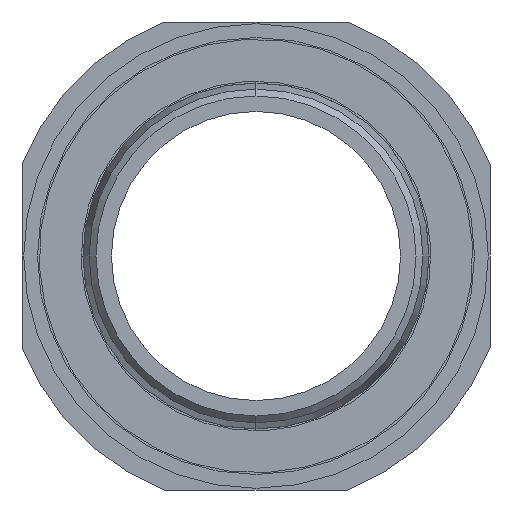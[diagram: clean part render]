
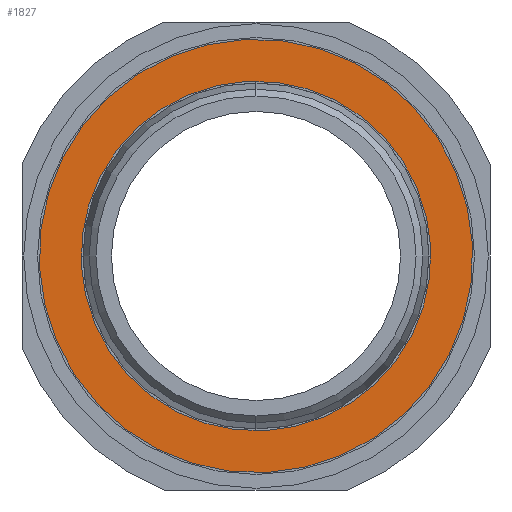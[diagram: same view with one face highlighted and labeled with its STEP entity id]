
A CAD part, left-side view. The second image highlights one B-rep face of the part: STEP entity #1827.
In plain terms, the highlighted planar face has unit normal (-1, 0, 0).
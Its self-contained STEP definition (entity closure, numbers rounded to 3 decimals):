
#265 = AXIS2_PLACEMENT_3D ( 'NONE', #1411, #1412, #1413 ) ;
#267 = AXIS2_PLACEMENT_3D ( 'NONE', #1421, #1422, #1423 ) ;
#277 = EDGE_LOOP ( 'NONE', ( #1157, #1158 ) ) ;
#500 = CIRCLE ( 'NONE', #265, 25.4 ) ;
#504 = CIRCLE ( 'NONE', #267, 31.5 ) ;
#511 = CIRCLE ( 'NONE', #1310, 31.5 ) ;
#512 = CIRCLE ( 'NONE', #1311, 25.4 ) ;
#990 = VERTEX_POINT ( 'NONE', #1793 ) ;
#1105 = VERTEX_POINT ( 'NONE', #1781 ) ;
#1106 = VERTEX_POINT ( 'NONE', #1780 ) ;
#1155 = ORIENTED_EDGE ( 'NONE', *, *, #1984, .F. ) ;
#1156 = ORIENTED_EDGE ( 'NONE', *, *, #1980, .F. ) ;
#1157 = ORIENTED_EDGE ( 'NONE', *, *, #1976, .T. ) ;
#1158 = ORIENTED_EDGE ( 'NONE', *, *, #1985, .T. ) ;
#1178 = FACE_OUTER_BOUND ( 'NONE', #1734, .T. ) ;
#1182 = FACE_BOUND ( 'NONE', #277, .T. ) ;
#1310 = AXIS2_PLACEMENT_3D ( 'NONE', #1432, #1433, #1434 ) ;
#1311 = AXIS2_PLACEMENT_3D ( 'NONE', #1437, #1438, #1439 ) ;
#1411 = CARTESIAN_POINT ( 'NONE',  ( -85., 0., 0. ) ) ;
#1412 = DIRECTION ( 'NONE',  ( 1., 0., 0. ) ) ;
#1413 = DIRECTION ( 'NONE',  ( 0., -0.225, -0.974 ) ) ;
#1421 = CARTESIAN_POINT ( 'NONE',  ( -85., 0., 0. ) ) ;
#1422 = DIRECTION ( 'NONE',  ( 1., 0., 0. ) ) ;
#1423 = DIRECTION ( 'NONE',  ( 0., -0.225, -0.974 ) ) ;
#1432 = CARTESIAN_POINT ( 'NONE',  ( -85., 0., 0. ) ) ;
#1433 = DIRECTION ( 'NONE',  ( 1., 0., 0. ) ) ;
#1434 = DIRECTION ( 'NONE',  ( 0., -0.225, -0.974 ) ) ;
#1437 = CARTESIAN_POINT ( 'NONE',  ( -85., 0., 0. ) ) ;
#1438 = DIRECTION ( 'NONE',  ( 1., 0., 0. ) ) ;
#1439 = DIRECTION ( 'NONE',  ( 0., -0.225, -0.974 ) ) ;
#1728 = VERTEX_POINT ( 'NONE', #1772 ) ;
#1734 = EDGE_LOOP ( 'NONE', ( #1155, #1156 ) ) ;
#1772 = CARTESIAN_POINT ( 'NONE',  ( -85., -5.72, -24.747 ) ) ;
#1774 = DIRECTION ( 'NONE',  ( 0., -0.225, -0.974 ) ) ;
#1775 = DIRECTION ( 'NONE',  ( 1., 0., 0. ) ) ;
#1776 = CARTESIAN_POINT ( 'NONE',  ( -85., 0., 0. ) ) ;
#1780 = CARTESIAN_POINT ( 'NONE',  ( -85., 7.094, 30.691 ) ) ;
#1781 = CARTESIAN_POINT ( 'NONE',  ( -85., -7.094, -30.691 ) ) ;
#1790 = PLANE ( 'NONE',  #2061 ) ;
#1793 = CARTESIAN_POINT ( 'NONE',  ( -85., 5.72, 24.747 ) ) ;
#1827 = ADVANCED_FACE ( 'NONE', ( #1178, #1182 ), #1790, .F. ) ;
#1976 = EDGE_CURVE ( 'NONE', #990, #1728, #500, .T. ) ;
#1980 = EDGE_CURVE ( 'NONE', #1105, #1106, #504, .T. ) ;
#1984 = EDGE_CURVE ( 'NONE', #1106, #1105, #511, .T. ) ;
#1985 = EDGE_CURVE ( 'NONE', #1728, #990, #512, .T. ) ;
#2061 = AXIS2_PLACEMENT_3D ( 'NONE', #1776, #1775, #1774 ) ;
